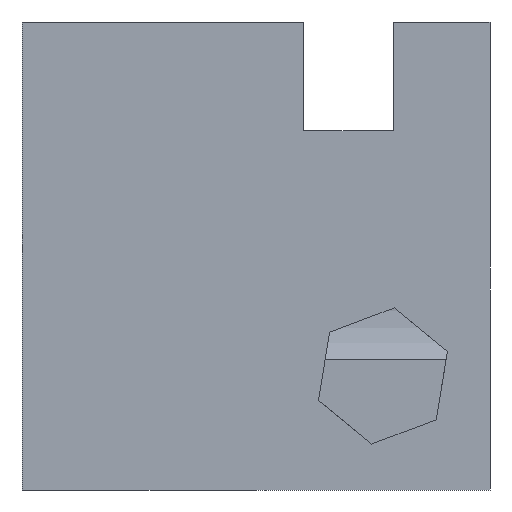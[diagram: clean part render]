
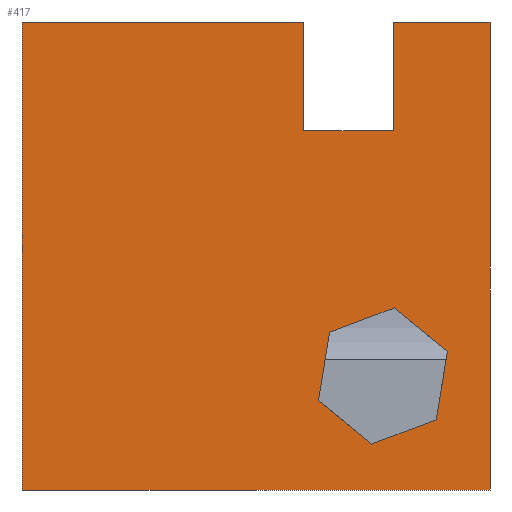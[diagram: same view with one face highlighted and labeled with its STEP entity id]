
A CAD part, left-side view. The second image highlights one B-rep face of the part: STEP entity #417.
In plain terms, the highlighted planar face has unit normal (-1, 0, 0).
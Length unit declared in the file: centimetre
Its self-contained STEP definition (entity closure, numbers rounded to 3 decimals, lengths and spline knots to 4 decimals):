
#7 = CARTESIAN_POINT ( 'NONE',  ( 0., 0., 1000. ) ) ;
#14 = CARTESIAN_POINT ( 'NONE',  ( 0., 0., 0. ) ) ;
#15 = VERTEX_POINT ( 'NONE', #825 ) ;
#20 = CARTESIAN_POINT ( 'NONE',  ( 0., 1000., 1000. ) ) ;
#22 = LINE ( 'NONE', #507, #52 ) ;
#27 = FACE_BOUND ( 'NONE', #297, .T. ) ;
#39 = EDGE_CURVE ( 'NONE', #638, #129, #99, .T. ) ;
#41 = VERTEX_POINT ( 'NONE', #557 ) ;
#45 = CARTESIAN_POINT ( 'NONE',  ( 0., 1000., 0. ) ) ;
#50 = EDGE_CURVE ( 'NONE', #444, #307, #84, .T. ) ;
#52 = VECTOR ( 'NONE', #441, 100. ) ;
#66 = EDGE_CURVE ( 'NONE', #565, #638, #22, .T. ) ;
#80 = VECTOR ( 'NONE', #269, 100. ) ;
#84 = LINE ( 'NONE', #837, #330 ) ;
#85 = EDGE_CURVE ( 'NONE', #444, #15, #831, .T. ) ;
#89 = CARTESIAN_POINT ( 'NONE',  ( 0., 1000., 1000. ) ) ;
#99 = LINE ( 'NONE', #490, #818 ) ;
#105 = LINE ( 'NONE', #455, #832 ) ;
#108 = CARTESIAN_POINT ( 'NONE',  ( 0., 206.2117, 767.3982 ) ) ;
#125 = AXIS2_PLACEMENT_3D ( 'NONE', #574, #840, #237 ) ;
#129 = VERTEX_POINT ( 'NONE', #14 ) ;
#136 = CARTESIAN_POINT ( 'NONE',  ( 0., 1000., 0. ) ) ;
#165 = EDGE_CURVE ( 'NONE', #826, #509, #590, .T. ) ;
#171 = VERTEX_POINT ( 'NONE', #527 ) ;
#172 = CARTESIAN_POINT ( 'NONE',  ( 0., 90.9263, 295.6818 ) ) ;
#175 = VERTEX_POINT ( 'NONE', #464 ) ;
#192 = ORIENTED_EDGE ( 'NONE', *, *, #66, .F. ) ;
#205 = VECTOR ( 'NONE', #549, 100. ) ;
#207 = LINE ( 'NONE', #407, #460 ) ;
#218 = EDGE_CURVE ( 'NONE', #175, #565, #585, .T. ) ;
#220 = LINE ( 'NONE', #45, #413 ) ;
#237 = DIRECTION ( 'NONE',  ( 0., 0., -1. ) ) ;
#244 = FACE_OUTER_BOUND ( 'NONE', #303, .T. ) ;
#253 = CARTESIAN_POINT ( 'NONE',  ( 0., 366.597, 191.5447 ) ) ;
#260 = CARTESIAN_POINT ( 'NONE',  ( 0., 252.5866, 98.2101 ) ) ;
#269 = DIRECTION ( 'NONE',  ( 0., 0., -1. ) ) ;
#285 = DIRECTION ( 'NONE',  ( 0., 0., -1. ) ) ;
#286 = EDGE_CURVE ( 'NONE', #331, #175, #424, .T. ) ;
#297 = EDGE_LOOP ( 'NONE', ( #783, #373, #664, #721, #597, #467 ) ) ;
#299 = PLANE ( 'NONE',  #125 ) ;
#303 = EDGE_LOOP ( 'NONE', ( #315, #869, #531, #551, #785, #320, #192, #853 ) ) ;
#307 = VERTEX_POINT ( 'NONE', #136 ) ;
#315 = ORIENTED_EDGE ( 'NONE', *, *, #286, .F. ) ;
#320 = ORIENTED_EDGE ( 'NONE', *, *, #39, .F. ) ;
#330 = VECTOR ( 'NONE', #285, 100. ) ;
#331 = VERTEX_POINT ( 'NONE', #363 ) ;
#353 = DIRECTION ( 'NONE',  ( 0., -0.935, 0.353 ) ) ;
#363 = CARTESIAN_POINT ( 'NONE',  ( 0., 398.2306, 767.3982 ) ) ;
#373 = ORIENTED_EDGE ( 'NONE', *, *, #514, .F. ) ;
#380 = DIRECTION ( 'NONE',  ( 0., 0., 1. ) ) ;
#381 = LINE ( 'NONE', #401, #634 ) ;
#401 = CARTESIAN_POINT ( 'NONE',  ( 0., 204.9366, 389.0165 ) ) ;
#403 = VECTOR ( 'NONE', #779, 100. ) ;
#407 = CARTESIAN_POINT ( 'NONE',  ( 0., 342.772, 336.9479 ) ) ;
#413 = VECTOR ( 'NONE', #698, 100. ) ;
#417 = ADVANCED_FACE ( 'NONE', ( #27, #244 ), #299, .F. ) ;
#424 = LINE ( 'NONE', #484, #205 ) ;
#436 = DIRECTION ( 'NONE',  ( 0., -1., 0. ) ) ;
#441 = DIRECTION ( 'NONE',  ( 0., -1., 0. ) ) ;
#444 = VERTEX_POINT ( 'NONE', #20 ) ;
#455 = CARTESIAN_POINT ( 'NONE',  ( 0., 114.7513, 150.2786 ) ) ;
#459 = DIRECTION ( 'NONE',  ( 0., 0.935, -0.353 ) ) ;
#460 = VECTOR ( 'NONE', #603, 100. ) ;
#464 = CARTESIAN_POINT ( 'NONE',  ( 0., 206.2117, 767.3982 ) ) ;
#466 = EDGE_CURVE ( 'NONE', #566, #555, #834, .T. ) ;
#467 = ORIENTED_EDGE ( 'NONE', *, *, #165, .F. ) ;
#484 = CARTESIAN_POINT ( 'NONE',  ( 0., 206.2117, 767.3982 ) ) ;
#490 = CARTESIAN_POINT ( 'NONE',  ( 0., 0., 1000. ) ) ;
#506 = LINE ( 'NONE', #568, #679 ) ;
#507 = CARTESIAN_POINT ( 'NONE',  ( 0., 1000., 1000. ) ) ;
#509 = VERTEX_POINT ( 'NONE', #260 ) ;
#510 = VECTOR ( 'NONE', #436, 100. ) ;
#514 = EDGE_CURVE ( 'NONE', #555, #41, #381, .T. ) ;
#520 = CARTESIAN_POINT ( 'NONE',  ( 0., 90.9263, 295.6818 ) ) ;
#527 = CARTESIAN_POINT ( 'NONE',  ( 0., 114.7513, 150.2786 ) ) ;
#531 = ORIENTED_EDGE ( 'NONE', *, *, #85, .F. ) ;
#544 = EDGE_CURVE ( 'NONE', #171, #566, #105, .T. ) ;
#549 = DIRECTION ( 'NONE',  ( 0., -1., 0. ) ) ;
#551 = ORIENTED_EDGE ( 'NONE', *, *, #50, .T. ) ;
#555 = VERTEX_POINT ( 'NONE', #591 ) ;
#557 = CARTESIAN_POINT ( 'NONE',  ( 0., 342.772, 336.9479 ) ) ;
#565 = VERTEX_POINT ( 'NONE', #807 ) ;
#566 = VERTEX_POINT ( 'NONE', #520 ) ;
#568 = CARTESIAN_POINT ( 'NONE',  ( 0., 252.5866, 98.2101 ) ) ;
#574 = CARTESIAN_POINT ( 'NONE',  ( 0., 1000., 1000. ) ) ;
#585 = LINE ( 'NONE', #108, #607 ) ;
#590 = LINE ( 'NONE', #253, #676 ) ;
#591 = CARTESIAN_POINT ( 'NONE',  ( 0., 204.9366, 389.0165 ) ) ;
#597 = ORIENTED_EDGE ( 'NONE', *, *, #764, .F. ) ;
#603 = DIRECTION ( 'NONE',  ( 0., 0.162, -0.987 ) ) ;
#606 = LINE ( 'NONE', #873, #80 ) ;
#607 = VECTOR ( 'NONE', #380, 100. ) ;
#625 = EDGE_CURVE ( 'NONE', #41, #826, #207, .T. ) ;
#634 = VECTOR ( 'NONE', #459, 100. ) ;
#638 = VERTEX_POINT ( 'NONE', #7 ) ;
#658 = DIRECTION ( 'NONE',  ( 0., -0.774, -0.633 ) ) ;
#664 = ORIENTED_EDGE ( 'NONE', *, *, #466, .F. ) ;
#666 = DIRECTION ( 'NONE',  ( 0., -0.162, 0.987 ) ) ;
#676 = VECTOR ( 'NONE', #658, 100. ) ;
#679 = VECTOR ( 'NONE', #353, 100. ) ;
#698 = DIRECTION ( 'NONE',  ( 0., -1., 0. ) ) ;
#721 = ORIENTED_EDGE ( 'NONE', *, *, #544, .F. ) ;
#737 = EDGE_CURVE ( 'NONE', #15, #331, #606, .T. ) ;
#763 = DIRECTION ( 'NONE',  ( 0., 0., -1. ) ) ;
#764 = EDGE_CURVE ( 'NONE', #509, #171, #506, .T. ) ;
#779 = DIRECTION ( 'NONE',  ( 0., 0.774, 0.633 ) ) ;
#783 = ORIENTED_EDGE ( 'NONE', *, *, #625, .F. ) ;
#785 = ORIENTED_EDGE ( 'NONE', *, *, #804, .T. ) ;
#804 = EDGE_CURVE ( 'NONE', #307, #129, #220, .T. ) ;
#807 = CARTESIAN_POINT ( 'NONE',  ( 0., 206.2117, 1000. ) ) ;
#818 = VECTOR ( 'NONE', #763, 100. ) ;
#825 = CARTESIAN_POINT ( 'NONE',  ( 0., 398.2306, 1000. ) ) ;
#826 = VERTEX_POINT ( 'NONE', #830 ) ;
#830 = CARTESIAN_POINT ( 'NONE',  ( 0., 366.597, 191.5447 ) ) ;
#831 = LINE ( 'NONE', #89, #510 ) ;
#832 = VECTOR ( 'NONE', #666, 100. ) ;
#834 = LINE ( 'NONE', #172, #403 ) ;
#837 = CARTESIAN_POINT ( 'NONE',  ( 0., 1000., 1000. ) ) ;
#840 = DIRECTION ( 'NONE',  ( 1., 0., 0. ) ) ;
#853 = ORIENTED_EDGE ( 'NONE', *, *, #218, .F. ) ;
#869 = ORIENTED_EDGE ( 'NONE', *, *, #737, .F. ) ;
#873 = CARTESIAN_POINT ( 'NONE',  ( 0., 398.2306, 767.3982 ) ) ;
